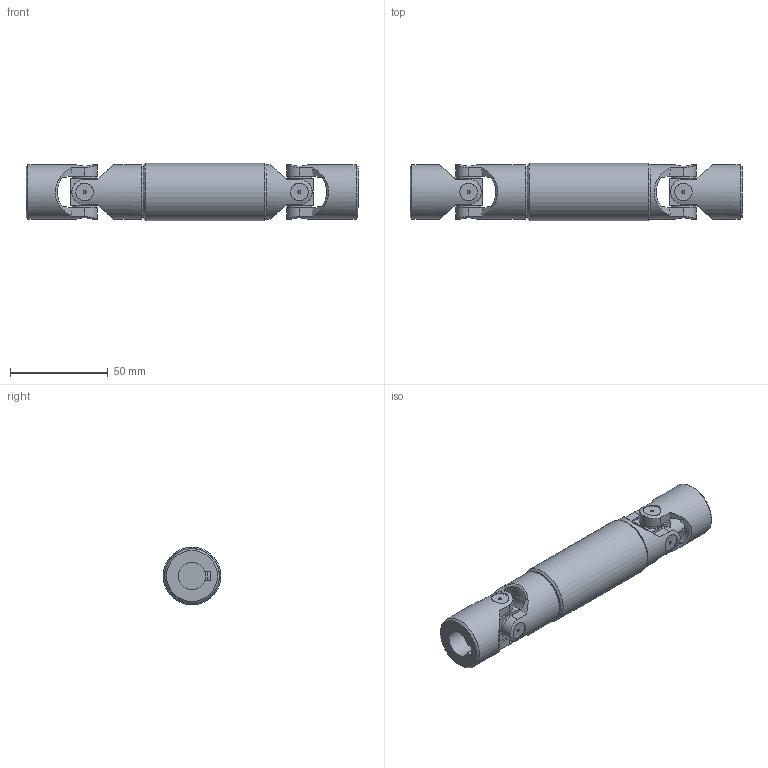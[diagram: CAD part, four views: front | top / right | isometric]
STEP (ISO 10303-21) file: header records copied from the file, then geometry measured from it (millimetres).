
FILE_DESCRIPTION(/* description */ ('EXTENSIBLE TRANSIMISSIONS Series G DIN 808 -2-'),/* implementation_level */ '2;1');
FILE_NAME(/* name */ '\\SRV2016\Societa\Stefano\Disegni 3D\00Catalogo 3D\03Trasmissioni standard GA\!05GA10\!05GA10_SG0A1410.stp',/* time_stamp */ '2022-02-15T11:00:41+01:00',/* author */ ('acquisti'),/* organization */ ('MARIOFERRI'),/* preprocessor_version */ 'ST-DEVELOPER v15.6',/* originating_system */ 'Autodesk Inventor 2015',/* authorisation */ '');
FILE_SCHEMA (('AUTOMOTIVE_DESIGN { 1 0 10303 214 3 1 1 }'));
Length unit declared in the file: millimetre
Products named in the file (5): 05G SFE; !05GA10 LAI; !05GA10 LCI; 05G MOC; !05GA10_SG0A1410
Assembly tree (6 placements, depth 2):
  !05GA10_SG0A1410
    05G SFE  x2
    !05GA10 LAI
    !05GA10 LCI
    05G MOC  x2
Bounding box: 170 x 29.5 x 29.5 mm (x, y, z)
Volume: 81989.4 mm3; surface area: 31511.1 mm2
Topology: 6 solids, 6 shells, 204 faces, 515 edges, 347 vertices
Faces by surface type: plane 106, cylinder 69, cone 25, torus 4
Full cylindrical faces by diameter (mm): 1.5 x8, 9 x8, 12.5 x8, 14 x1, 14.5 x2, 24 x1, 28 x4, 29.5 x1
Entity records: 5255 total; most frequent: CARTESIAN_POINT 1529, DIRECTION 751, ORIENTED_EDGE 724, EDGE_CURVE 362, AXIS2_PLACEMENT_3D 299, VERTEX_POINT 262, EDGE_LOOP 212, FACE_OUTER_BOUND 158
